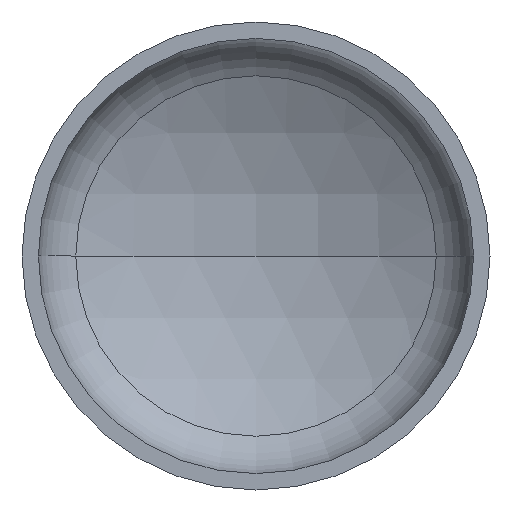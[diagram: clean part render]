
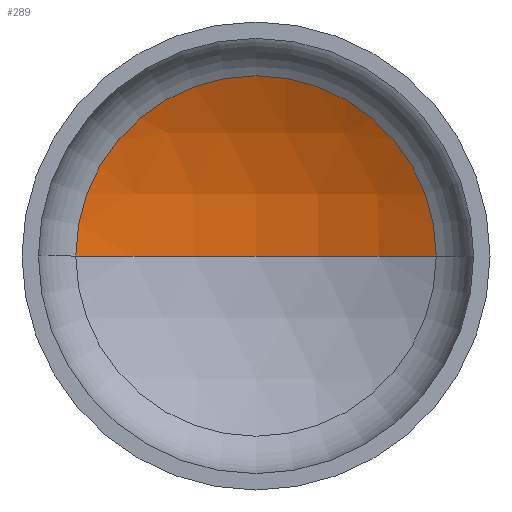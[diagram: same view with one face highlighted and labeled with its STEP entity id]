
A CAD part, front view. The second image highlights one B-rep face of the part: STEP entity #289.
In plain terms, the highlighted spherical face has radius 1920 mm.
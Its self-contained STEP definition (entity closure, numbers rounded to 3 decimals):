
#8 = EDGE_LOOP ( 'NONE', ( #341, #118, #107 ) ) ;
#32 = AXIS2_PLACEMENT_3D ( 'NONE', #124, #150, #158 ) ;
#41 = VERTEX_POINT ( 'NONE', #290 ) ;
#48 = CARTESIAN_POINT ( 'NONE',  ( 0., 661.33, 0. ) ) ;
#49 = AXIS2_PLACEMENT_3D ( 'NONE', #272, #240, #238 ) ;
#52 = AXIS2_PLACEMENT_3D ( 'NONE', #200, #203, #219 ) ;
#55 = AXIS2_PLACEMENT_3D ( 'NONE', #271, #405, #67 ) ;
#67 = DIRECTION ( 'NONE',  ( 1., 0., 0. ) ) ;
#93 = CIRCLE ( 'NONE', #52, 1920. ) ;
#99 = VERTEX_POINT ( 'NONE', #236 ) ;
#107 = ORIENTED_EDGE ( 'NONE', *, *, #166, .T. ) ;
#118 = ORIENTED_EDGE ( 'NONE', *, *, #172, .T. ) ;
#124 = CARTESIAN_POINT ( 'NONE',  ( 0., -1258.67, 0. ) ) ;
#150 = DIRECTION ( 'NONE',  ( 0., 0., -1. ) ) ;
#158 = DIRECTION ( 'NONE',  ( -1., 0., 0. ) ) ;
#166 = EDGE_CURVE ( 'NONE', #99, #41, #374, .T. ) ;
#172 = EDGE_CURVE ( 'NONE', #282, #99, #93, .T. ) ;
#187 = EDGE_CURVE ( 'NONE', #282, #41, #367, .T. ) ;
#200 = CARTESIAN_POINT ( 'NONE',  ( 0., -1258.67, 0. ) ) ;
#203 = DIRECTION ( 'NONE',  ( 0., 0., -1. ) ) ;
#219 = DIRECTION ( 'NONE',  ( -1., 0., 0. ) ) ;
#236 = CARTESIAN_POINT ( 'NONE',  ( 924.077, 424.328, 0. ) ) ;
#238 = DIRECTION ( 'NONE',  ( 1., 0., 0. ) ) ;
#239 = SPHERICAL_SURFACE ( 'NONE', #32, 1920. ) ;
#240 = DIRECTION ( 'NONE',  ( 0., 0., 1. ) ) ;
#271 = CARTESIAN_POINT ( 'NONE',  ( 0., 424.328, 0. ) ) ;
#272 = CARTESIAN_POINT ( 'NONE',  ( 0., -1258.67, 0. ) ) ;
#282 = VERTEX_POINT ( 'NONE', #48 ) ;
#289 = ADVANCED_FACE ( 'NONE', ( #347 ), #239, .F. ) ;
#290 = CARTESIAN_POINT ( 'NONE',  ( -924.077, 424.328, 0. ) ) ;
#341 = ORIENTED_EDGE ( 'NONE', *, *, #187, .F. ) ;
#347 = FACE_OUTER_BOUND ( 'NONE', #8, .T. ) ;
#367 = CIRCLE ( 'NONE', #49, 1920. ) ;
#374 = CIRCLE ( 'NONE', #55, 924.077 ) ;
#405 = DIRECTION ( 'NONE',  ( 0., -1., 0. ) ) ;
